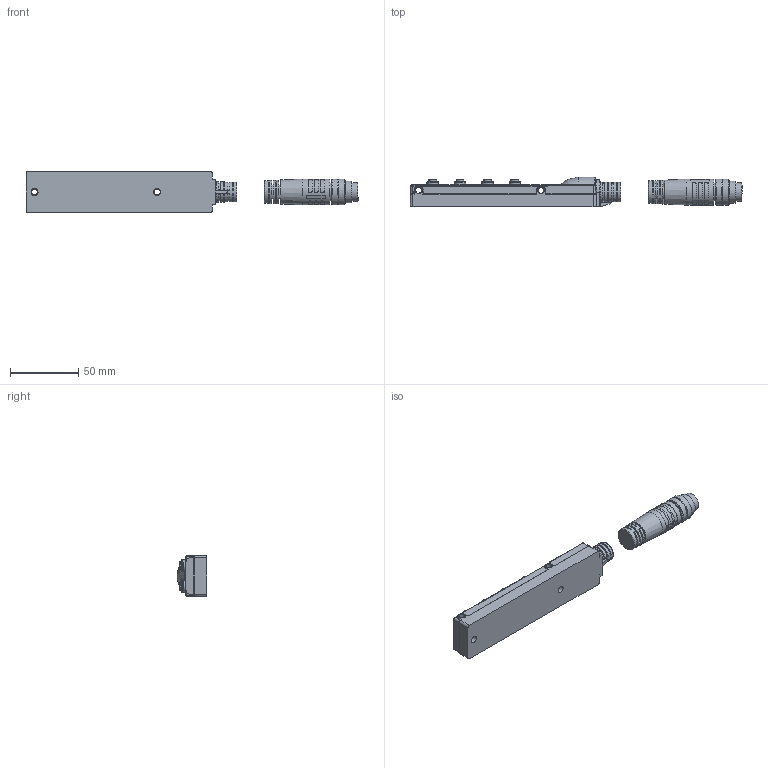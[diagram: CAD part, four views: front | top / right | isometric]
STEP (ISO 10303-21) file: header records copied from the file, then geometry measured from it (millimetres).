
FILE_DESCRIPTION (( 'STEP AP203' ), '1' );
FILE_NAME ('TB-8M8Z-3-Cable-BSM.step', '2019-12-23T13:15:28', ( '' ), ( '' ), 'SwSTEP 2.0', 'SolidWorks 2017', '' );
FILE_SCHEMA (( 'CONFIG_CONTROL_DESIGN' ));
Products named in the file (1): TB-8M8Z-3-Cable-BSM
Bounding box: 242.6 x 21.8 x 29.96 mm (x, y, z)
Volume: 82331.8 mm3; surface area: 28233 mm2
Topology: 2 solids, 10 shells, 1321 faces, 3408 edges, 2143 vertices
Faces by surface type: plane 545, cylinder 529, bspline 144, sphere 46, cone 38, torus 19
Full cylindrical faces by diameter (mm): 1.075 x24, 1.3 x8, 1.575 x24, 5.65 x8, 6.4 x8, 6.9 x8, 7 x16, 8.3 x8, 12.2 x1, 12.9 x1, 13.5 x1, 16 x1, 18 x2, 18.5 x1, 19 x3
Entity records: 43887 total; most frequent: CARTESIAN_POINT 14742, ORIENTED_EDGE 6182, DIRECTION 5638, EDGE_CURVE 3091, AXIS2_PLACEMENT_3D 2057, VERTEX_POINT 2023, EDGE_LOOP 1656, VECTOR 1524
